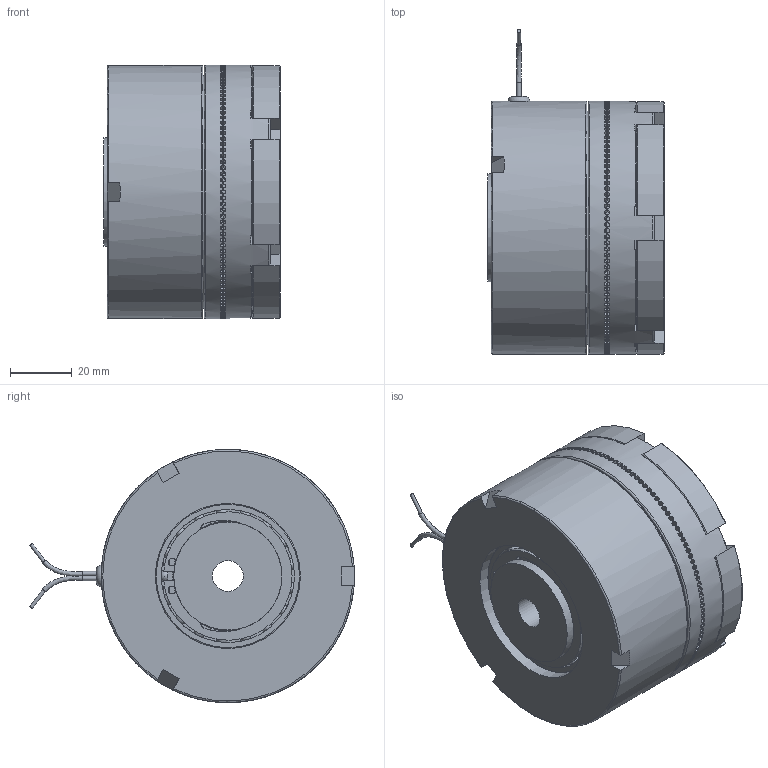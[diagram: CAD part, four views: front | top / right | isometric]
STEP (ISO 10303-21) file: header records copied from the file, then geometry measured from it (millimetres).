
FILE_DESCRIPTION(/* description */ (''),/* implementation_level */ '2;1');
FILE_NAME(/* name */ 'X:\INVENTOR\DISEGNI\07_Innesti_Elettmag_a_Dentini\07_05 ESB_Z\07_05_082_01 ESB082_Z\07_05_082_01 ESB082_Z-2017@STEP.stp',/* time_stamp */ '2017-09-08T15:17:06+02:00',/* author */ ('stefano'),/* organization */ (''),/* preprocessor_version */ 'ST-DEVELOPER v16.1',/* originating_system */ 'Autodesk Inventor 2016',/* authorisation */ '');
FILE_SCHEMA (('CONFIG_CONTROL_DESIGN'));
Products named in the file (1): 07_05_082_01 ESB082_Z_Substitute_1
Bounding box: 57 x 105.22 x 82 mm (x, y, z)
Volume: 247023.5 mm3; surface area: 66742.7 mm2
Topology: 2 solids, 2 shells, 1529 faces, 4580 edges, 2982 vertices
Faces by surface type: plane 1306, cylinder 128, torus 47, cone 29, sphere 17, bspline 2
Full cylindrical faces by diameter (mm): 1.154 x2, 1.5 x2, 2.5 x4, 2.6 x3, 3.242 x3, 5 x34, 5.3 x3, 5.75 x3, 8 x3, 9.5 x3, 10 x1, 33 x1, 35 x6, 38.5 x1, 38.84 x2, 43.16 x2, 46.5 x1, 47 x3, 54.2 x1, 55 x1, 64.2 x1, 71 x1, 74.5 x1, 75 x2, 75.5 x1, 76 x1, 82 x3
Entity records: 55105 total; most frequent: CARTESIAN_POINT 10841, DIRECTION 10016, ORIENTED_EDGE 8756, EDGE_CURVE 4371, AXIS2_PLACEMENT_3D 4264, VERTEX_POINT 2892, EDGE_LOOP 1723, ELLIPSE 1563
